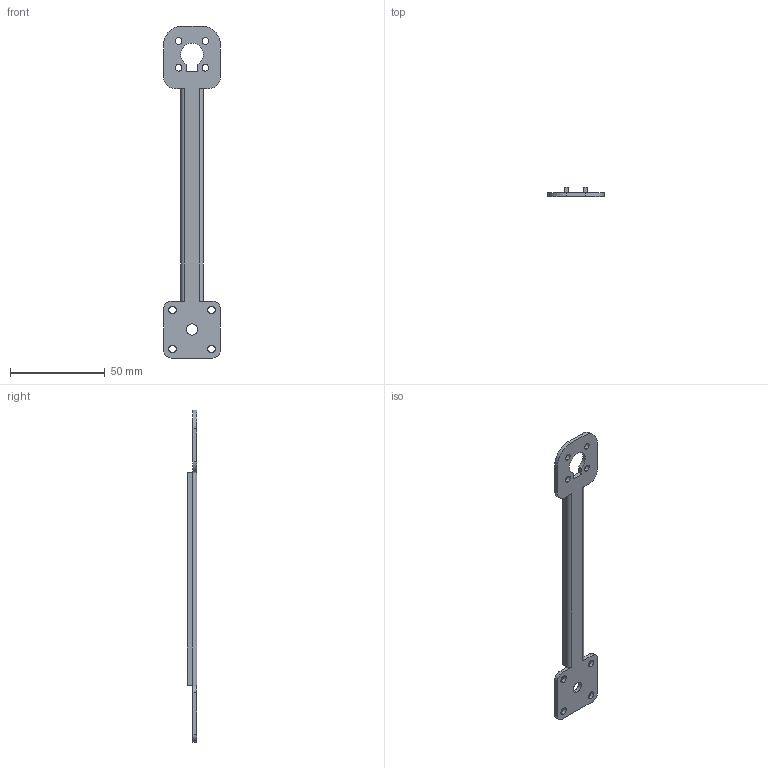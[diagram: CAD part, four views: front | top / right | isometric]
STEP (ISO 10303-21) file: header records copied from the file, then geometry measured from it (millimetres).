
FILE_DESCRIPTION (( 'STEP AP203' ), '1' );
FILE_NAME ('儂迮旋2僇.STEP', '2025-08-22T12:50:42', ( '' ), ( '' ), 'SwSTEP 2.0', 'SolidWorks 2025', '' );
FILE_SCHEMA (( 'CONFIG_CONTROL_DESIGN' ));
Length unit declared in the file: millimetre
Products named in the file (1): 机械臂2段
Bounding box: 30 x 5 x 175 mm (x, y, z)
Volume: 6976.1 mm3; surface area: 8170.6 mm2
Topology: 1 solids, 1 shells, 55 faces, 151 edges, 98 vertices
Faces by surface type: cylinder 30, plane 25
Entity records: 1878 total; most frequent: DIRECTION 323, CARTESIAN_POINT 305, ORIENTED_EDGE 302, EDGE_CURVE 151, AXIS2_PLACEMENT_3D 116, VERTEX_POINT 98, LINE 91, VECTOR 91
